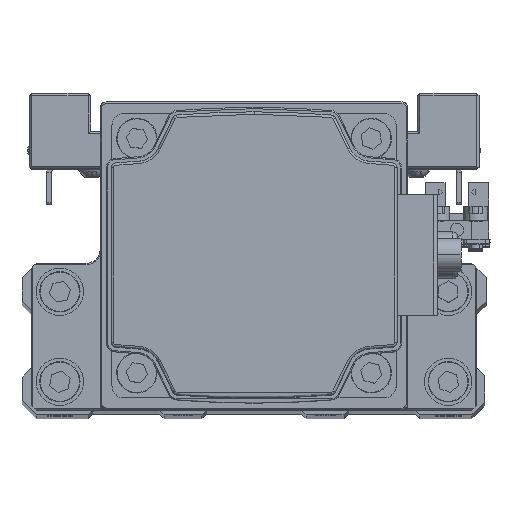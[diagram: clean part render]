
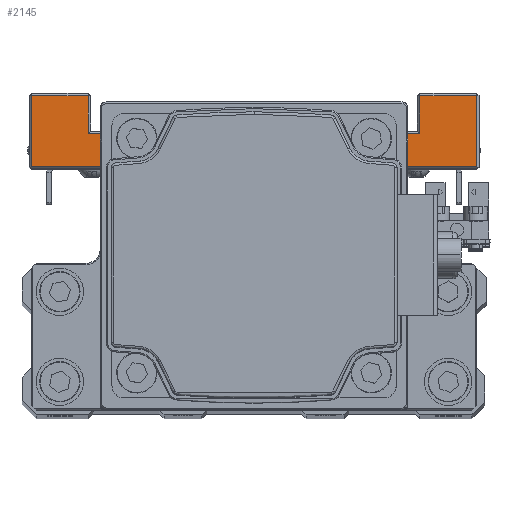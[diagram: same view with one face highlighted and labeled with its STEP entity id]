
A CAD part, top view. The second image highlights one B-rep face of the part: STEP entity #2145.
In plain terms, the highlighted planar face has unit normal (0, 0, 1) as drawn and (1, 0, 0) by its records, which use the part's own axes.
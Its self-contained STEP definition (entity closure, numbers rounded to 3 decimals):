
#215 = VERTEX_POINT ( 'NONE', #28634 ) ;
#1241 = VERTEX_POINT ( 'NONE', #4952 ) ;
#1258 = VECTOR ( 'NONE', #37999, 1000. ) ;
#1327 = VECTOR ( 'NONE', #34428, 1000. ) ;
#1430 = LINE ( 'NONE', #13736, #25088 ) ;
#2145 = ADVANCED_FACE ( 'NONE', ( #26758 ), #39082, .F. ) ;
#2691 = DIRECTION ( 'NONE',  ( 0., 0., -1. ) ) ;
#4952 = CARTESIAN_POINT ( 'NONE',  ( 47., 23., 35. ) ) ;
#5389 = CARTESIAN_POINT ( 'NONE',  ( 47., 7.5, -35. ) ) ;
#6605 = VECTOR ( 'NONE', #35000, 1000. ) ;
#6761 = ORIENTED_EDGE ( 'NONE', *, *, #9197, .T. ) ;
#6901 = EDGE_CURVE ( 'NONE', #37458, #8997, #9325, .T. ) ;
#7832 = CARTESIAN_POINT ( 'NONE',  ( 47., 23., -20. ) ) ;
#7849 = CARTESIAN_POINT ( 'NONE',  ( 47., 23., -35. ) ) ;
#8247 = DIRECTION ( 'NONE',  ( 0., 0., 1. ) ) ;
#8441 = CARTESIAN_POINT ( 'NONE',  ( 47., 8., 47. ) ) ;
#8665 = VECTOR ( 'NONE', #20147, 1000. ) ;
#8891 = VECTOR ( 'NONE', #33930, 1000. ) ;
#8997 = VERTEX_POINT ( 'NONE', #8441 ) ;
#9197 = EDGE_CURVE ( 'NONE', #30028, #10246, #9820, .T. ) ;
#9325 = LINE ( 'NONE', #21631, #8891 ) ;
#9562 = CARTESIAN_POINT ( 'NONE',  ( 47., -7.5, 20. ) ) ;
#9766 = LINE ( 'NONE', #22067, #20520 ) ;
#9820 = LINE ( 'NONE', #22128, #1327 ) ;
#10246 = VERTEX_POINT ( 'NONE', #7849 ) ;
#10399 = LINE ( 'NONE', #22706, #6605 ) ;
#10839 = ORIENTED_EDGE ( 'NONE', *, *, #19157, .T. ) ;
#10948 = EDGE_CURVE ( 'NONE', #33954, #30028, #9766, .T. ) ;
#11027 = VECTOR ( 'NONE', #8247, 1000. ) ;
#11456 = CARTESIAN_POINT ( 'NONE',  ( 47., 7.5, -20. ) ) ;
#11554 = CARTESIAN_POINT ( 'NONE',  ( 47., 8., 20. ) ) ;
#11745 = ORIENTED_EDGE ( 'NONE', *, *, #37960, .T. ) ;
#13417 = LINE ( 'NONE', #25685, #1258 ) ;
#13453 = EDGE_CURVE ( 'NONE', #215, #16203, #13417, .T. ) ;
#13736 = CARTESIAN_POINT ( 'NONE',  ( 47., -7.5, -20. ) ) ;
#14960 = ORIENTED_EDGE ( 'NONE', *, *, #18430, .T. ) ;
#15235 = LINE ( 'NONE', #27517, #22876 ) ;
#16203 = VERTEX_POINT ( 'NONE', #9562 ) ;
#16844 = EDGE_CURVE ( 'NONE', #10246, #19887, #33024, .T. ) ;
#17680 = EDGE_CURVE ( 'NONE', #8997, #215, #39182, .T. ) ;
#17710 = DIRECTION ( 'NONE',  ( 0., -1., 0. ) ) ;
#17878 = CARTESIAN_POINT ( 'NONE',  ( 47., 23., -47. ) ) ;
#18026 = LINE ( 'NONE', #30310, #35131 ) ;
#18430 = EDGE_CURVE ( 'NONE', #1241, #37458, #35467, .T. ) ;
#18787 = EDGE_CURVE ( 'NONE', #36969, #38765, #15235, .T. ) ;
#18987 = CARTESIAN_POINT ( 'NONE',  ( 47., -7.5, -20. ) ) ;
#19157 = EDGE_CURVE ( 'NONE', #36969, #33954, #18026, .T. ) ;
#19570 = ORIENTED_EDGE ( 'NONE', *, *, #13453, .T. ) ;
#19780 = ORIENTED_EDGE ( 'NONE', *, *, #10948, .T. ) ;
#19887 = VERTEX_POINT ( 'NONE', #26518 ) ;
#20147 = DIRECTION ( 'NONE',  ( 0., 0., 1. ) ) ;
#20520 = VECTOR ( 'NONE', #34363, 1000. ) ;
#20950 = CARTESIAN_POINT ( 'NONE',  ( 47., 15., 35. ) ) ;
#21631 = CARTESIAN_POINT ( 'NONE',  ( 47., 7.5, 47. ) ) ;
#21856 = CARTESIAN_POINT ( 'NONE',  ( 47., 8., -20. ) ) ;
#22067 = CARTESIAN_POINT ( 'NONE',  ( 47., 7.5, -47. ) ) ;
#22128 = CARTESIAN_POINT ( 'NONE',  ( 47., 23., -20. ) ) ;
#22386 = ORIENTED_EDGE ( 'NONE', *, *, #6901, .T. ) ;
#22706 = CARTESIAN_POINT ( 'NONE',  ( 47., 7.5, 35. ) ) ;
#22754 = CARTESIAN_POINT ( 'NONE',  ( 47., 23., 47. ) ) ;
#22876 = VECTOR ( 'NONE', #39830, 1000. ) ;
#23537 = CARTESIAN_POINT ( 'NONE',  ( 47., 8., -47. ) ) ;
#23572 = LINE ( 'NONE', #35873, #11027 ) ;
#23756 = DIRECTION ( 'NONE',  ( -1., 0., 0. ) ) ;
#23854 = DIRECTION ( 'NONE',  ( 0., 0., -1. ) ) ;
#25088 = VECTOR ( 'NONE', #26003, 1000. ) ;
#25347 = VECTOR ( 'NONE', #23854, 1000. ) ;
#25617 = ORIENTED_EDGE ( 'NONE', *, *, #17680, .T. ) ;
#25685 = CARTESIAN_POINT ( 'NONE',  ( 47., 7.5, 20. ) ) ;
#26003 = DIRECTION ( 'NONE',  ( 0., 0., -1. ) ) ;
#26177 = VERTEX_POINT ( 'NONE', #20950 ) ;
#26518 = CARTESIAN_POINT ( 'NONE',  ( 47., 15., -35. ) ) ;
#26758 = FACE_OUTER_BOUND ( 'NONE', #27735, .T. ) ;
#27076 = AXIS2_PLACEMENT_3D ( 'NONE', #11456, #23756, #36052 ) ;
#27371 = ORIENTED_EDGE ( 'NONE', *, *, #34823, .T. ) ;
#27517 = CARTESIAN_POINT ( 'NONE',  ( 47., 7.5, -20. ) ) ;
#27735 = EDGE_LOOP ( 'NONE', ( #35721, #10839, #19780, #6761, #35305, #27371, #11745, #14960, #22386, #25617, #19570, #31762 ) ) ;
#28634 = CARTESIAN_POINT ( 'NONE',  ( 47., 8., 20. ) ) ;
#30028 = VERTEX_POINT ( 'NONE', #17878 ) ;
#30310 = CARTESIAN_POINT ( 'NONE',  ( 47., 8., -47. ) ) ;
#31762 = ORIENTED_EDGE ( 'NONE', *, *, #33438, .T. ) ;
#33024 = LINE ( 'NONE', #5389, #37542 ) ;
#33438 = EDGE_CURVE ( 'NONE', #16203, #38765, #1430, .T. ) ;
#33930 = DIRECTION ( 'NONE',  ( 0., -1., 0. ) ) ;
#33954 = VERTEX_POINT ( 'NONE', #23537 ) ;
#34363 = DIRECTION ( 'NONE',  ( 0., 1., 0. ) ) ;
#34428 = DIRECTION ( 'NONE',  ( 0., 0., 1. ) ) ;
#34823 = EDGE_CURVE ( 'NONE', #19887, #26177, #23572, .T. ) ;
#35000 = DIRECTION ( 'NONE',  ( 0., 1., 0. ) ) ;
#35131 = VECTOR ( 'NONE', #2691, 1000. ) ;
#35305 = ORIENTED_EDGE ( 'NONE', *, *, #16844, .T. ) ;
#35467 = LINE ( 'NONE', #7832, #8665 ) ;
#35721 = ORIENTED_EDGE ( 'NONE', *, *, #18787, .F. ) ;
#35873 = CARTESIAN_POINT ( 'NONE',  ( 47., 15., -20. ) ) ;
#36052 = DIRECTION ( 'NONE',  ( 0., 0., 1. ) ) ;
#36969 = VERTEX_POINT ( 'NONE', #21856 ) ;
#37458 = VERTEX_POINT ( 'NONE', #22754 ) ;
#37542 = VECTOR ( 'NONE', #17710, 1000. ) ;
#37960 = EDGE_CURVE ( 'NONE', #26177, #1241, #10399, .T. ) ;
#37999 = DIRECTION ( 'NONE',  ( 0., -1., 0. ) ) ;
#38765 = VERTEX_POINT ( 'NONE', #18987 ) ;
#39082 = PLANE ( 'NONE',  #27076 ) ;
#39182 = LINE ( 'NONE', #11554, #25347 ) ;
#39830 = DIRECTION ( 'NONE',  ( 0., -1., 0. ) ) ;
